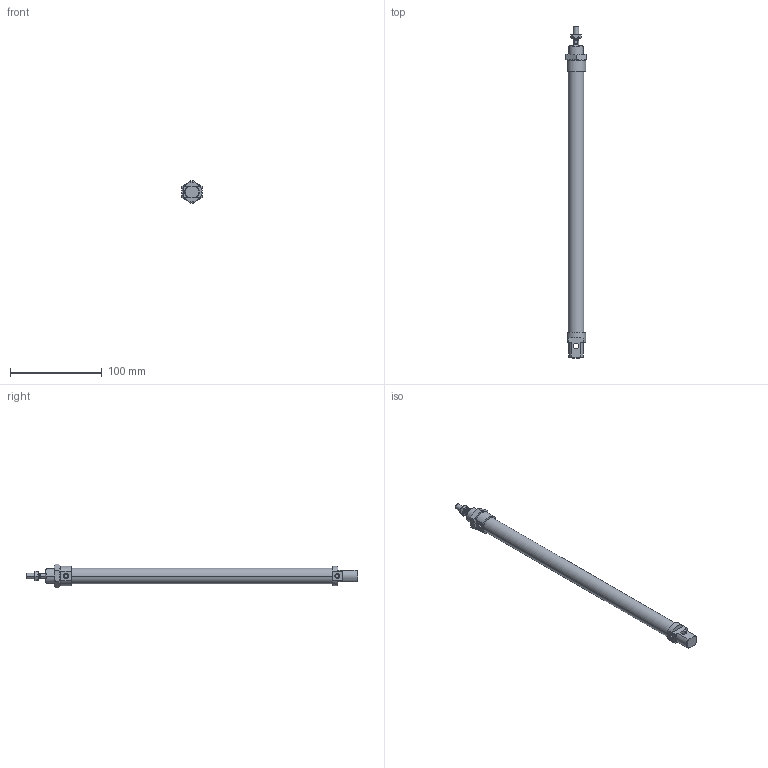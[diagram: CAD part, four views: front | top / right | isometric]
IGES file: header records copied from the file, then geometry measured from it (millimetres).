
Global section: file name: No Iges File Name specified; native system: Autodesk Inventor 2010; preprocessor: AutoDesk Inventor Iges Exporter R2010; author: rivolro1; date: 20090604.093236; units: millimetre
Bounding box: 22 x 361 x 25.4 mm (x, y, z)
Volume: 80948.9 mm3; surface area: 31980.4 mm2
Topology: 4 solids, 4 shells, 107 faces, 236 edges, 144 vertices
Faces by surface type: plane 39, cone 28, bspline 20, cylinder 14, revolution 6
